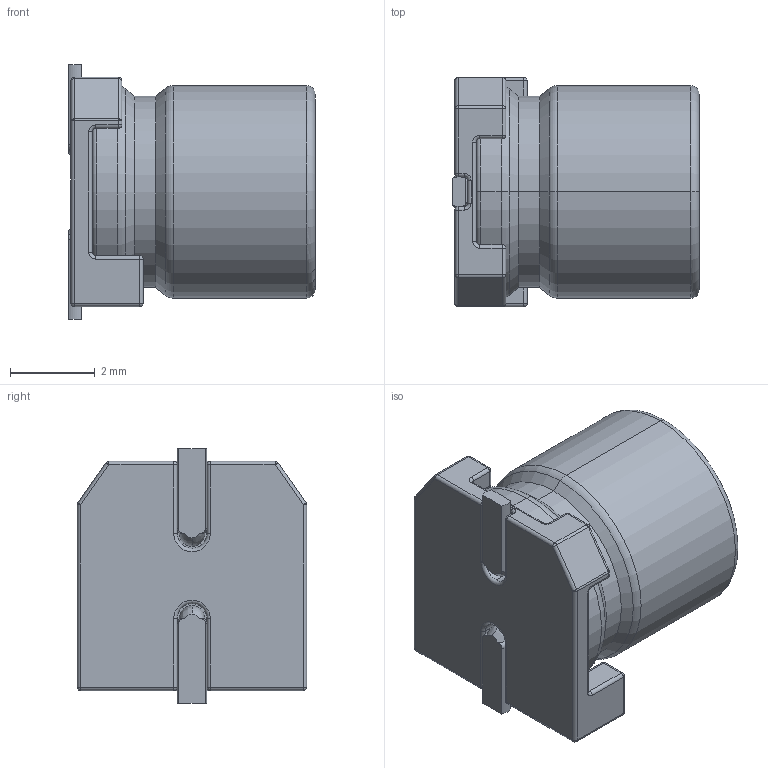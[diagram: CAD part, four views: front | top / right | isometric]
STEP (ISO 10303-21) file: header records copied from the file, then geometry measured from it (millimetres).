
FILE_DESCRIPTION((''),'2;1');
FILE_NAME('HYBRIDSMD5X58_ASM','2020-06-03T',('xy'),(''),'PRO/ENGINEER BY PARAMETRIC TECHNOLOGY CORPORATION, 2009380','PRO/ENGINEER BY PARAMETRIC TECHNOLOGY CORPORATION, 2009380','');
FILE_SCHEMA(('CONFIG_CONTROL_DESIGN'));
Length unit declared in the file: millimetre
Products named in the file (3): HYBRIDSMD5X58; ZB5A; HYBRIDSMD5X58_ASM
Assembly tree (2 placements, depth 2):
  HYBRIDSMD5X58_ASM
    HYBRIDSMD5X58
    ZB5A
Bounding box: 5.8 x 5.4 x 6 mm (x, y, z)
Volume: 116.6 mm3; surface area: 216.2 mm2
Topology: 2 solids, 2 shells, 620 faces, 1606 edges, 1010 vertices
Faces by surface type: plane 424, cylinder 99, torus 51, sphere 32, bspline 10, cone 4
Entity records: 19111 total; most frequent: CARTESIAN_POINT 3817, ORIENTED_EDGE 3208, DIRECTION 3086, EDGE_CURVE 1604, VECTOR 1274, LINE 1274, VERTEX_POINT 1010, AXIS2_PLACEMENT_3D 906
